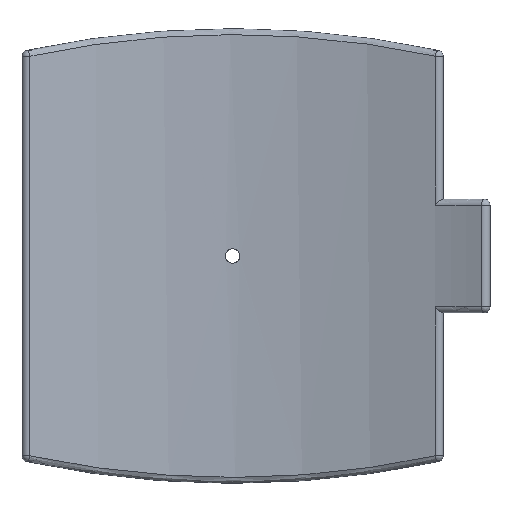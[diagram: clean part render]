
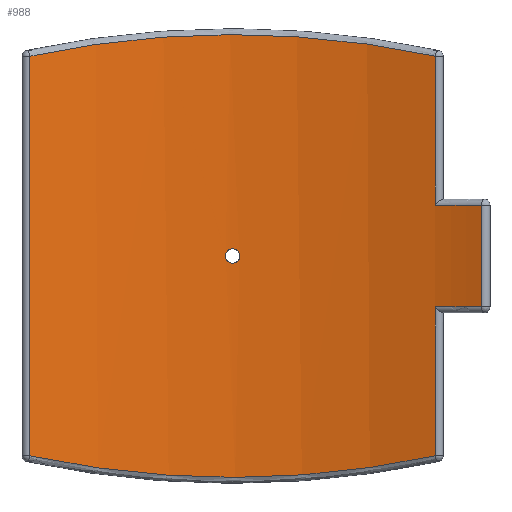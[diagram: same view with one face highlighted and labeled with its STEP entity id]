
A CAD part, front view. The second image highlights one B-rep face of the part: STEP entity #988.
In plain terms, the highlighted cylindrical face has radius 400 mm (diameter 800 mm), a partial arc.
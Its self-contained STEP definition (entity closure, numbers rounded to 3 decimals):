
#51=FACE_BOUND('',#212,.T.);
#132=FACE_OUTER_BOUND('',#211,.T.);
#211=EDGE_LOOP('',(#876,#877,#878,#879,#880,#881,#882,#883));
#212=EDGE_LOOP('',(#884));
#225=B_SPLINE_CURVE_WITH_KNOTS('',3,(#1877,#1878,#1879,#1880,#1881,#1882,
#1883,#1884,#1885,#1886,#1887,#1888,#1889,#1890,#1891,#1892,#1893,#1894,
#1895,#1896,#1897,#1898,#1899,#1900,#1901,#1902,#1903,#1904,#1905,#1906,
#1907,#1908,#1909,#1910),.UNSPECIFIED.,.T.,.F.,(4,2,2,2,2,2,2,2,2,2,2,2,
2,2,2,2,4),(0.,0.181,0.362,0.542,0.723,
0.904,1.085,1.266,1.446,1.627,
1.808,1.989,2.17,2.351,2.531,
2.712,2.893),.UNSPECIFIED.);
#231=B_SPLINE_CURVE_WITH_KNOTS('',3,(#2254,#2255,#2256,#2257,#2258,#2259,
#2260),.UNSPECIFIED.,.F.,.F.,(4,1,1,1,4),(-33.009,-24.92,
-16.832,-12.788,-4.7),.UNSPECIFIED.);
#237=B_SPLINE_CURVE_WITH_KNOTS('',3,(#2388,#2389,#2390,#2391,#2392,#2393,
#2394),.UNSPECIFIED.,.F.,.F.,(4,1,1,1,4),(-29.966,-21.877,
-13.789,-5.701,-1.657),.UNSPECIFIED.);
#259=LINE('',#2201,#300);
#263=LINE('',#2272,#304);
#270=LINE('',#2313,#311);
#275=LINE('',#2412,#316);
#300=VECTOR('',#1368,10.);
#304=VECTOR('',#1384,10.);
#311=VECTOR('',#1407,10.);
#316=VECTOR('',#1432,10.);
#388=CIRCLE('',#1119,400.);
#391=CIRCLE('',#1127,400.);
#425=VERTEX_POINT('',#1875);
#443=VERTEX_POINT('',#2014);
#448=VERTEX_POINT('',#2090);
#457=VERTEX_POINT('',#2116);
#458=VERTEX_POINT('',#2120);
#463=VERTEX_POINT('',#2193);
#468=VERTEX_POINT('',#2209);
#470=VERTEX_POINT('',#2271);
#474=VERTEX_POINT('',#2317);
#515=EDGE_CURVE('',#425,#425,#225,.T.);
#575=EDGE_CURVE('',#463,#457,#259,.T.);
#581=EDGE_CURVE('',#458,#468,#231,.T.);
#584=EDGE_CURVE('',#468,#470,#263,.T.);
#587=EDGE_CURVE('',#470,#463,#388,.T.);
#596=EDGE_CURVE('',#448,#458,#270,.T.);
#598=EDGE_CURVE('',#457,#474,#391,.T.);
#606=EDGE_CURVE('',#443,#448,#237,.T.);
#610=EDGE_CURVE('',#474,#443,#275,.T.);
#876=ORIENTED_EDGE('',*,*,#581,.F.);
#877=ORIENTED_EDGE('',*,*,#596,.F.);
#878=ORIENTED_EDGE('',*,*,#606,.F.);
#879=ORIENTED_EDGE('',*,*,#610,.F.);
#880=ORIENTED_EDGE('',*,*,#598,.F.);
#881=ORIENTED_EDGE('',*,*,#575,.F.);
#882=ORIENTED_EDGE('',*,*,#587,.F.);
#883=ORIENTED_EDGE('',*,*,#584,.F.);
#884=ORIENTED_EDGE('',*,*,#515,.T.);
#922=CYLINDRICAL_SURFACE('',#1144,400.);
#988=ADVANCED_FACE('',(#132,#51),#922,.F.);
#1119=AXIS2_PLACEMENT_3D('',#2288,#1389,#1390);
#1127=AXIS2_PLACEMENT_3D('',#2318,#1412,#1413);
#1144=AXIS2_PLACEMENT_3D('',#2428,#1456,#1457);
#1368=DIRECTION('',(0.,0.,-1.));
#1384=DIRECTION('',(0.,0.,-1.));
#1389=DIRECTION('center_axis',(0.,0.,-1.));
#1390=DIRECTION('ref_axis',(0.394,0.919,0.));
#1407=DIRECTION('',(0.,0.,1.));
#1412=DIRECTION('center_axis',(0.,0.,1.));
#1413=DIRECTION('ref_axis',(0.394,0.919,0.));
#1432=DIRECTION('',(0.,0.,-1.));
#1456=DIRECTION('center_axis',(0.,0.,1.));
#1457=DIRECTION('ref_axis',(-1.,0.,0.));
#1875=CARTESIAN_POINT('',(4.8,399.971,0.));
#1877=CARTESIAN_POINT('Ctrl Pts',(4.8,399.971,0.));
#1878=CARTESIAN_POINT('Ctrl Pts',(4.8,399.971,-0.603));
#1879=CARTESIAN_POINT('Ctrl Pts',(4.68,399.973,-1.246));
#1880=CARTESIAN_POINT('Ctrl Pts',(4.19,399.978,-2.428));
#1881=CARTESIAN_POINT('Ctrl Pts',(3.82,399.982,-2.968));
#1882=CARTESIAN_POINT('Ctrl Pts',(2.968,399.989,-3.82));
#1883=CARTESIAN_POINT('Ctrl Pts',(2.428,399.993,-4.19));
#1884=CARTESIAN_POINT('Ctrl Pts',(1.246,399.998,-4.68));
#1885=CARTESIAN_POINT('Ctrl Pts',(0.603,400.,-4.8));
#1886=CARTESIAN_POINT('Ctrl Pts',(-0.603,400.,-4.8));
#1887=CARTESIAN_POINT('Ctrl Pts',(-1.246,399.998,-4.68));
#1888=CARTESIAN_POINT('Ctrl Pts',(-2.428,399.993,-4.19));
#1889=CARTESIAN_POINT('Ctrl Pts',(-2.968,399.989,-3.82));
#1890=CARTESIAN_POINT('Ctrl Pts',(-3.82,399.982,-2.968));
#1891=CARTESIAN_POINT('Ctrl Pts',(-4.19,399.978,-2.428));
#1892=CARTESIAN_POINT('Ctrl Pts',(-4.68,399.973,-1.246));
#1893=CARTESIAN_POINT('Ctrl Pts',(-4.8,399.971,-0.603));
#1894=CARTESIAN_POINT('Ctrl Pts',(-4.8,399.971,0.603));
#1895=CARTESIAN_POINT('Ctrl Pts',(-4.68,399.973,1.246));
#1896=CARTESIAN_POINT('Ctrl Pts',(-4.19,399.978,2.428));
#1897=CARTESIAN_POINT('Ctrl Pts',(-3.82,399.982,2.968));
#1898=CARTESIAN_POINT('Ctrl Pts',(-2.968,399.989,3.82));
#1899=CARTESIAN_POINT('Ctrl Pts',(-2.428,399.993,4.19));
#1900=CARTESIAN_POINT('Ctrl Pts',(-1.246,399.998,4.68));
#1901=CARTESIAN_POINT('Ctrl Pts',(-0.603,400.,4.8));
#1902=CARTESIAN_POINT('Ctrl Pts',(0.603,400.,4.8));
#1903=CARTESIAN_POINT('Ctrl Pts',(1.246,399.998,4.68));
#1904=CARTESIAN_POINT('Ctrl Pts',(2.428,399.993,4.19));
#1905=CARTESIAN_POINT('Ctrl Pts',(2.968,399.989,3.82));
#1906=CARTESIAN_POINT('Ctrl Pts',(3.82,399.982,2.968));
#1907=CARTESIAN_POINT('Ctrl Pts',(4.19,399.978,2.428));
#1908=CARTESIAN_POINT('Ctrl Pts',(4.68,399.973,1.246));
#1909=CARTESIAN_POINT('Ctrl Pts',(4.8,399.971,0.603));
#1910=CARTESIAN_POINT('Ctrl Pts',(4.8,399.971,0.));
#2014=CARTESIAN_POINT('',(136.386,376.03,-134.471));
#2090=CARTESIAN_POINT('',(-136.386,376.03,-134.471));
#2116=CARTESIAN_POINT('',(167.574,363.206,-34.25));
#2120=CARTESIAN_POINT('',(-136.386,376.03,134.471));
#2193=CARTESIAN_POINT('',(167.574,363.206,34.25));
#2201=CARTESIAN_POINT('',(167.574,363.206,0.));
#2209=CARTESIAN_POINT('',(136.386,376.03,134.471));
#2254=CARTESIAN_POINT('Ctrl Pts',(-136.386,376.03,134.471));
#2255=CARTESIAN_POINT('Ctrl Pts',(-111.78,384.955,139.773));
#2256=CARTESIAN_POINT('Ctrl Pts',(-60.31,398.132,147.833));
#2257=CARTESIAN_POINT('Ctrl Pts',(6.776,401.509,149.934));
#2258=CARTESIAN_POINT('Ctrl Pts',(73.178,394.825,145.805));
#2259=CARTESIAN_POINT('Ctrl Pts',(111.78,384.955,139.773));
#2260=CARTESIAN_POINT('Ctrl Pts',(136.386,376.03,134.471));
#2271=CARTESIAN_POINT('',(136.386,376.03,34.25));
#2272=CARTESIAN_POINT('',(136.386,376.03,0.));
#2288=CARTESIAN_POINT('Origin',(0.,0.,34.25));
#2313=CARTESIAN_POINT('',(-136.386,376.03,0.));
#2317=CARTESIAN_POINT('',(136.386,376.03,-34.25));
#2318=CARTESIAN_POINT('Origin',(0.,0.,-34.25));
#2388=CARTESIAN_POINT('Ctrl Pts',(136.386,376.03,-134.471));
#2389=CARTESIAN_POINT('Ctrl Pts',(111.78,384.955,-139.773));
#2390=CARTESIAN_POINT('Ctrl Pts',(60.311,398.129,-147.83));
#2391=CARTESIAN_POINT('Ctrl Pts',(-20.199,402.19,-150.361));
#2392=CARTESIAN_POINT('Ctrl Pts',(-86.352,392.134,-144.132));
#2393=CARTESIAN_POINT('Ctrl Pts',(-124.083,380.493,-137.122));
#2394=CARTESIAN_POINT('Ctrl Pts',(-136.386,376.03,-134.471));
#2412=CARTESIAN_POINT('',(136.386,376.03,0.));
#2428=CARTESIAN_POINT('Origin',(0.,0.,0.));
